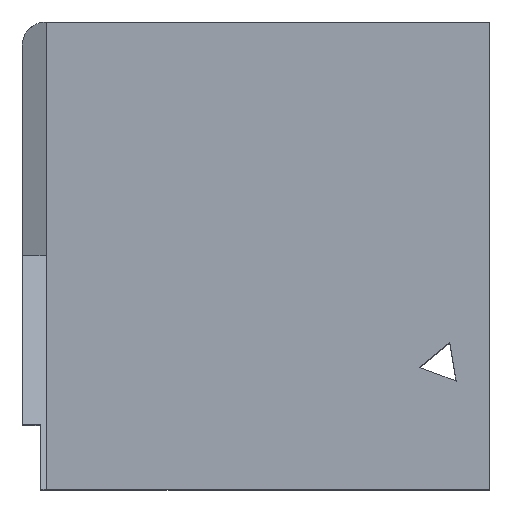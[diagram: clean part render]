
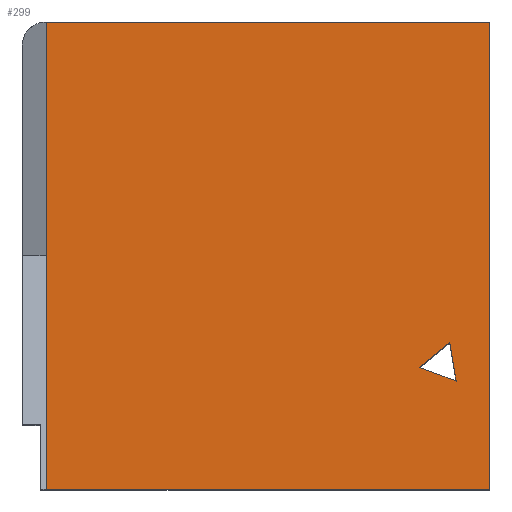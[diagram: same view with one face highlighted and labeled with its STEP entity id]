
A CAD part, top view. The second image highlights one B-rep face of the part: STEP entity #299.
In plain terms, the highlighted planar face has unit normal (0, 0, 1).
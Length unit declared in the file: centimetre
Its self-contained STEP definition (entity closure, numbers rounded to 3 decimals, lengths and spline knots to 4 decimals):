
#67 = CARTESIAN_POINT ( 'NONE',  ( 1000., 1000., 1000. ) ) ;
#76 = AXIS2_PLACEMENT_3D ( 'NONE', #1543, #150, #159 ) ;
#88 = LINE ( 'NONE', #949, #821 ) ;
#92 = CARTESIAN_POINT ( 'NONE',  ( 1000., 0., 1000. ) ) ;
#100 = DIRECTION ( 'NONE',  ( 0., 1., 0. ) ) ;
#133 = CARTESIAN_POINT ( 'NONE',  ( 50.9796, 0., 1000. ) ) ;
#134 = ORIENTED_EDGE ( 'NONE', *, *, #1417, .F. ) ;
#150 = DIRECTION ( 'NONE',  ( 0., 0., 1. ) ) ;
#156 = DIRECTION ( 'NONE',  ( 0.937, -0.349, 0. ) ) ;
#159 = DIRECTION ( 'NONE',  ( 1., 0., 0. ) ) ;
#166 = CARTESIAN_POINT ( 'NONE',  ( 914.6116, 313.9952, 1000. ) ) ;
#202 = ORIENTED_EDGE ( 'NONE', *, *, #523, .F. ) ;
#212 = VECTOR ( 'NONE', #156, 100. ) ;
#214 = CARTESIAN_POINT ( 'NONE',  ( 914.6116, 313.9952, 1000. ) ) ;
#299 = ADVANCED_FACE ( 'NONE', ( #775, #395 ), #659, .T. ) ;
#321 = DIRECTION ( 'NONE',  ( -0.771, -0.637, 0. ) ) ;
#349 = ORIENTED_EDGE ( 'NONE', *, *, #1447, .T. ) ;
#356 = VERTEX_POINT ( 'NONE', #166 ) ;
#395 = FACE_OUTER_BOUND ( 'NONE', #1049, .T. ) ;
#399 = CARTESIAN_POINT ( 'NONE',  ( 850.0535, 260.6736, 1000. ) ) ;
#424 = ORIENTED_EDGE ( 'NONE', *, *, #846, .F. ) ;
#517 = LINE ( 'NONE', #1403, #212 ) ;
#523 = EDGE_CURVE ( 'NONE', #1130, #1365, #945, .T. ) ;
#561 = VECTOR ( 'NONE', #822, 100. ) ;
#577 = VECTOR ( 'NONE', #100, 100. ) ;
#580 = LINE ( 'NONE', #214, #1286 ) ;
#595 = EDGE_CURVE ( 'NONE', #837, #1365, #1374, .T. ) ;
#649 = CARTESIAN_POINT ( 'NONE',  ( 0., 0., 1000. ) ) ;
#659 = PLANE ( 'NONE',  #76 ) ;
#775 = FACE_BOUND ( 'NONE', #852, .T. ) ;
#821 = VECTOR ( 'NONE', #1196, 100. ) ;
#822 = DIRECTION ( 'NONE',  ( 0., 1., 0. ) ) ;
#837 = VERTEX_POINT ( 'NONE', #67 ) ;
#846 = EDGE_CURVE ( 'NONE', #1285, #356, #88, .T. ) ;
#852 = EDGE_LOOP ( 'NONE', ( #134, #424, #1336 ) ) ;
#855 = VECTOR ( 'NONE', #1112, 100. ) ;
#866 = LINE ( 'NONE', #649, #1489 ) ;
#945 = LINE ( 'NONE', #1079, #561 ) ;
#949 = CARTESIAN_POINT ( 'NONE',  ( 928.5105, 231.4254, 1000. ) ) ;
#955 = VERTEX_POINT ( 'NONE', #92 ) ;
#991 = LINE ( 'NONE', #1108, #577 ) ;
#998 = CARTESIAN_POINT ( 'NONE',  ( 50.9796, 1000., 1000. ) ) ;
#1001 = DIRECTION ( 'NONE',  ( 1., 0., 0. ) ) ;
#1034 = CARTESIAN_POINT ( 'NONE',  ( 928.5105, 231.4254, 1000. ) ) ;
#1049 = EDGE_LOOP ( 'NONE', ( #1358, #202, #349, #1500 ) ) ;
#1079 = CARTESIAN_POINT ( 'NONE',  ( 50.9796, 0., 1000. ) ) ;
#1093 = EDGE_CURVE ( 'NONE', #955, #837, #991, .T. ) ;
#1106 = CARTESIAN_POINT ( 'NONE',  ( 0., 1000., 1000. ) ) ;
#1108 = CARTESIAN_POINT ( 'NONE',  ( 1000., 1000., 1000. ) ) ;
#1112 = DIRECTION ( 'NONE',  ( -1., 0., 0. ) ) ;
#1130 = VERTEX_POINT ( 'NONE', #133 ) ;
#1196 = DIRECTION ( 'NONE',  ( -0.166, 0.986, 0. ) ) ;
#1285 = VERTEX_POINT ( 'NONE', #1034 ) ;
#1286 = VECTOR ( 'NONE', #321, 100. ) ;
#1336 = ORIENTED_EDGE ( 'NONE', *, *, #1458, .F. ) ;
#1358 = ORIENTED_EDGE ( 'NONE', *, *, #595, .T. ) ;
#1365 = VERTEX_POINT ( 'NONE', #998 ) ;
#1374 = LINE ( 'NONE', #1106, #855 ) ;
#1403 = CARTESIAN_POINT ( 'NONE',  ( 850.0535, 260.6736, 1000. ) ) ;
#1417 = EDGE_CURVE ( 'NONE', #356, #1494, #580, .T. ) ;
#1447 = EDGE_CURVE ( 'NONE', #1130, #955, #866, .T. ) ;
#1458 = EDGE_CURVE ( 'NONE', #1494, #1285, #517, .T. ) ;
#1489 = VECTOR ( 'NONE', #1001, 100. ) ;
#1494 = VERTEX_POINT ( 'NONE', #399 ) ;
#1500 = ORIENTED_EDGE ( 'NONE', *, *, #1093, .T. ) ;
#1543 = CARTESIAN_POINT ( 'NONE',  ( 0., 0., 1000. ) ) ;
